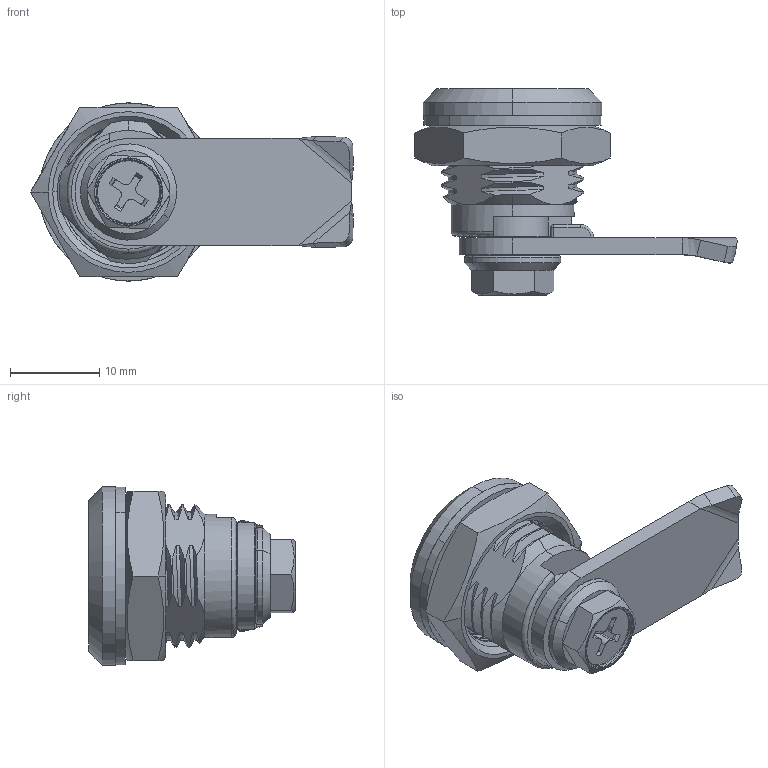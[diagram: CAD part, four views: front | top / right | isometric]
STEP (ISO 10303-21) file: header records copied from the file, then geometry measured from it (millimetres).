
FILE_DESCRIPTION (( 'STEP AP214' ), '1' );
FILE_NAME ('CUYUE D1-1414-7_sldasm.STEP', '2026-06-18T01:02:40', ( '' ), ( '' ), 'SwSTEP 2.0', 'SolidWorks 2020', '' );
FILE_SCHEMA (( 'AUTOMOTIVE_DESIGN' ));
Length unit declared in the file: millimetre
Products named in the file (7): D1-1414-7蚾饜极_sldasm.sldasm-Part-3; D1-1414-7蚾饜极_sldasm.sldasm-Part-1; D1-1414-7蚾饜极_sldasm.sldasm-Part-5; CUYUE D1-1414-7_sldasm; D1-1414-7蚾饜极_sldasm.sldasm-Part-2; D1-1414-7蚾饜极_sldasm.sldasm-Part-6; D1-1414-7蚾饜极_sldasm.sldasm-Part-4
Assembly tree (6 placements, depth 2):
  CUYUE D1-1414-7_sldasm
    D1-1414-7蚾饜极_sldasm.sldasm-Part-1
    D1-1414-7蚾饜极_sldasm.sldasm-Part-2
    D1-1414-7蚾饜极_sldasm.sldasm-Part-3
    D1-1414-7蚾饜极_sldasm.sldasm-Part-4
    D1-1414-7蚾饜极_sldasm.sldasm-Part-5
    D1-1414-7蚾饜极_sldasm.sldasm-Part-6
Bounding box: 36.16 x 23.13 x 20 mm (x, y, z)
Volume: 3852.3 mm3; surface area: 5272.6 mm2
Topology: 6 solids, 6 shells, 370 faces, 952 edges, 603 vertices
Faces by surface type: cylinder 122, plane 114, bspline 78, cone 40, torus 14, sphere 2
Entity records: 29224 total; most frequent: CARTESIAN_POINT 20783, ORIENTED_EDGE 1896, DIRECTION 1311, EDGE_CURVE 948, VERTEX_POINT 603, AXIS2_PLACEMENT_3D 478, EDGE_LOOP 391, ADVANCED_FACE 370
